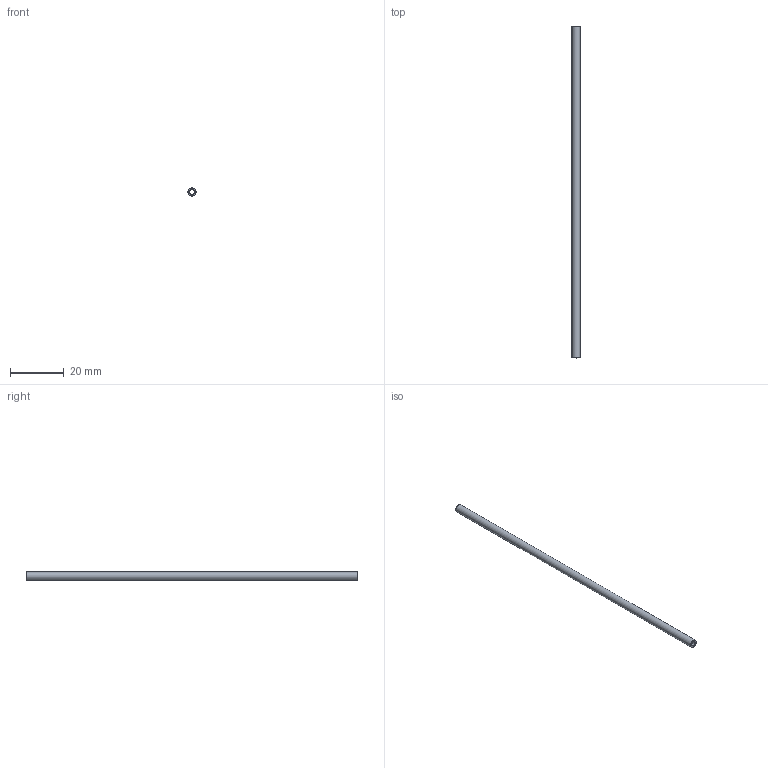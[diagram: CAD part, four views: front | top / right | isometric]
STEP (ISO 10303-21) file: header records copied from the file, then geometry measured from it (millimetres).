
FILE_DESCRIPTION(/* description */ ('STEP AP242 Edition 2','CAx-IF Rec.Pracs.---Representation and Presentation of Product Manufacturing Information (PMI)---4.0---2014-10-13','CAx-IF Rec.Pracs.---3D Tessellated Geometry---0.4---2014-09-14','2;1','CAx-IF Rec.Pracs.---User Defined Attributes---1.5---2016-08-15'),/* implementation_level */ '2;1');
FILE_NAME(/* name */ 'Final Build - pen tube',/* time_stamp */ '2026-08-31T23:26:26Z',/* author */ (''),/* organization */ (''),/* preprocessor_version */ 'ST-DEVELOPER v20',/* originating_system */ 'ONSHAPE BY PTC INC, 1.220',/* authorisation */ ' ');
FILE_SCHEMA (('AP242_MANAGED_MODEL_BASED_3D_ENGINEERING_MIM_LF { 1 0 10303 442 3 1 4 }'));
Length unit declared in the file: metre
Products named in the file (1): pen tube
Bounding box: 3 x 123.5 x 3 mm (x, y, z)
Volume: 558.7 mm3; surface area: 1871.4 mm2
Topology: 1 solids, 1 shells, 4 faces, 6 edges, 4 vertices
Faces by surface type: plane 2, cylinder 2
Full cylindrical faces by diameter (mm): 1.8 x1, 3 x1
Entity records: 110 total; most frequent: DIRECTION 18, CARTESIAN_POINT 13, AXIS2_PLACEMENT_3D 9, ORIENTED_EDGE 8, EDGE_LOOP 8, FACE_BOUND 8, EDGE_CURVE 4, VERTEX_POINT 4
